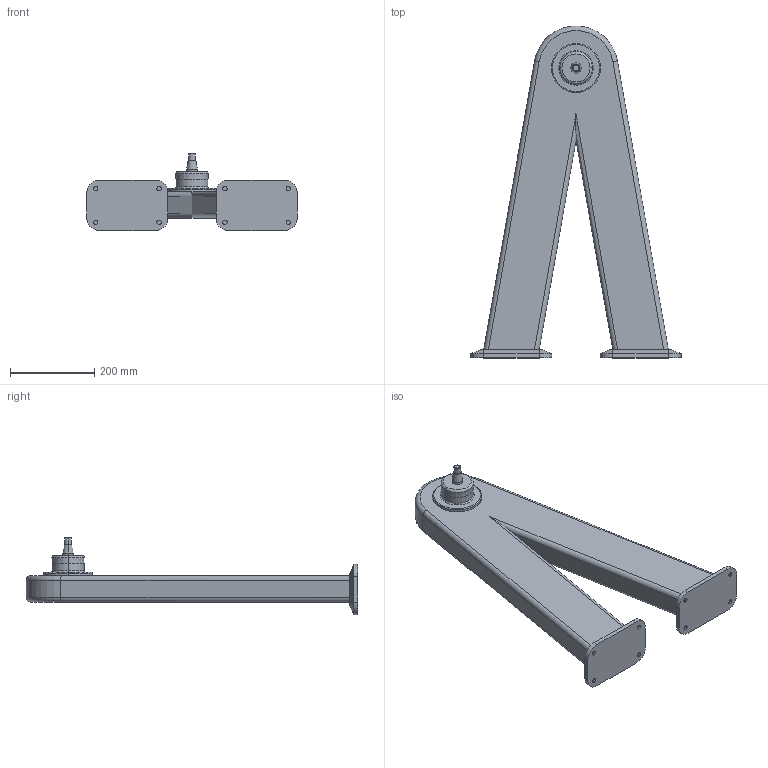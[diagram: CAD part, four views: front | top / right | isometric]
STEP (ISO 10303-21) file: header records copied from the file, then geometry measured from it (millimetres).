
FILE_DESCRIPTION (( 'STEP AP214' ), '1' );
FILE_NAME ('WP850_H690.STEP', '2014-09-08T13:03:44', ( '' ), ( '' ), 'SwSTEP 2.0', 'SolidWorks 2014', '' );
FILE_SCHEMA (( 'AUTOMOTIVE_DESIGN' ));
Length unit declared in the file: millimetre
Products named in the file (1): WP850_H690
Bounding box: 500.36 x 790 x 183.98 mm (x, y, z)
Volume: 12703264.6 mm3; surface area: 620389.1 mm2
Topology: 1 solids, 1 shells, 101 faces, 221 edges, 136 vertices
Faces by surface type: cylinder 41, plane 38, cone 14, torus 8
Entity records: 2795 total; most frequent: DIRECTION 513, CARTESIAN_POINT 489, ORIENTED_EDGE 442, EDGE_CURVE 221, AXIS2_PLACEMENT_3D 200, VERTEX_POINT 136, EDGE_LOOP 115, VECTOR 113
